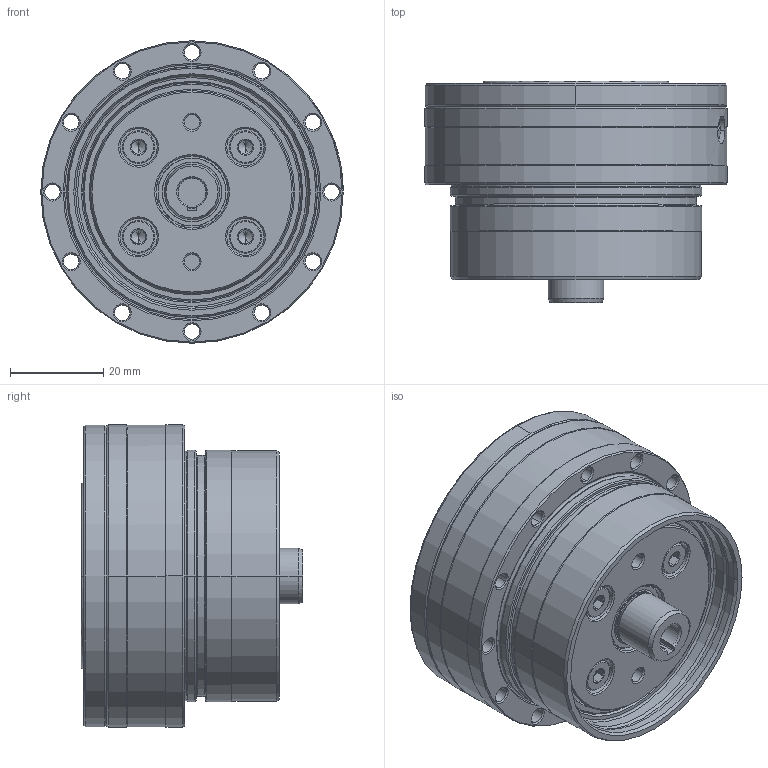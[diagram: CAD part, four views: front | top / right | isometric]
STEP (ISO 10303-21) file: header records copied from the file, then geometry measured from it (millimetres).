
FILE_DESCRIPTION((''),'2;1');
FILE_NAME('065_000G_P6_0836_ASM_ASM','2023-10-13T',('jackovicp'),(''),'PRO/ENGINEER BY PARAMETRIC TECHNOLOGY CORPORATION, 2016240','PRO/ENGINEER BY PARAMETRIC TECHNOLOGY CORPORATION, 2016240','');
FILE_SCHEMA(('AUTOMOTIVE_DESIGN { 1 0 10303 214 1 1 1 1 }'));
Length unit declared in the file: millimetre
Products named in the file (20): 065_011G_0810_AF2_5; 065_003G_0810_AF2_6; 065_007G_0810_AF0_5; GUF_DIN3761AS-040X047X4-FPM_5; SKR_DIN912-M2_5X6-129_AF0_5; SKR_DIN912-M2_5X6-129_AF1_5; SKR_DIN912-M2_5X6-129_AF2_5; 065_001G_P6_0810_AF0_6; 065_002G_0810_AF2_6; SKR_DIN912-M4X18-129_AF0_5; SKR_DIN912-M4X18-129_AF1_5; SKR_DIN912-M4X18-129_AF2_5; SKR_DIN912-M4X18-129_AF3_5; 065_012G_0810_AF0_5; ZATKA-FESTO-B-M3-S9_AF0_5; ZATKA-GA22X4_AF0_5; ZATKA-GA9X4_5; 060_013G_0743_5; 065_000G_P6_0836_ASM_12_ASM; 065_000G_P6_0836_ASM_ASM
Assembly tree (19 placements, depth 3):
  065_000G_P6_0836_ASM_ASM
    065_000G_P6_0836_ASM_12_ASM
      065_011G_0810_AF2_5
      065_003G_0810_AF2_6
      065_007G_0810_AF0_5
      GUF_DIN3761AS-040X047X4-FPM_5
      SKR_DIN912-M2_5X6-129_AF0_5
      SKR_DIN912-M2_5X6-129_AF1_5
      SKR_DIN912-M2_5X6-129_AF2_5
      065_001G_P6_0810_AF0_6
      065_002G_0810_AF2_6
      SKR_DIN912-M4X18-129_AF0_5
      SKR_DIN912-M4X18-129_AF1_5
      SKR_DIN912-M4X18-129_AF2_5
      SKR_DIN912-M4X18-129_AF3_5
      065_012G_0810_AF0_5
      ZATKA-FESTO-B-M3-S9_AF0_5
      ZATKA-GA22X4_AF0_5
      ZATKA-GA9X4_5
      060_013G_0743_5
Bounding box: 65 x 47.6 x 65 mm (x, y, z)
Volume: 46278.9 mm3; surface area: 41084.8 mm2
Topology: 18 solids, 18 shells, 1005 faces, 2808 edges, 1829 vertices
Faces by surface type: cone 380, cylinder 289, plane 272, torus 64
Entity records: 44878 total; most frequent: CARTESIAN_POINT 7374, DIRECTION 6212, ORIENTED_EDGE 5524, EDGE_CURVE 2762, AXIS2_PLACEMENT_3D 2632, VERTEX_POINT 1829, CIRCLE 1570, EDGE_LOOP 1149
